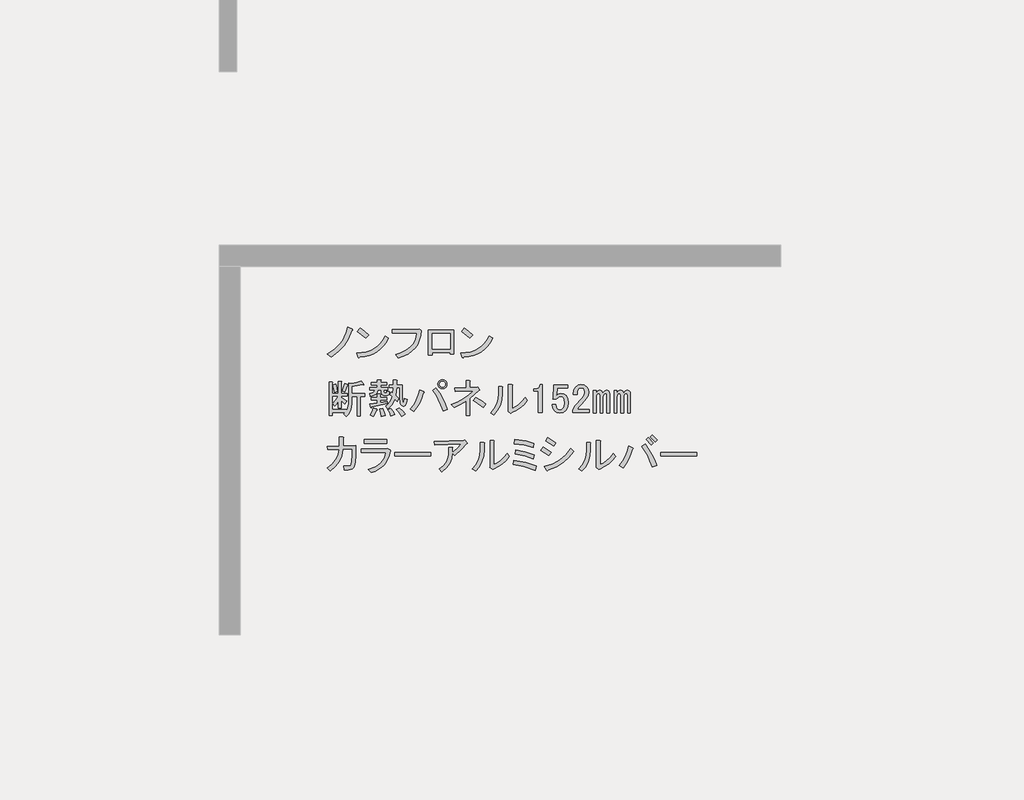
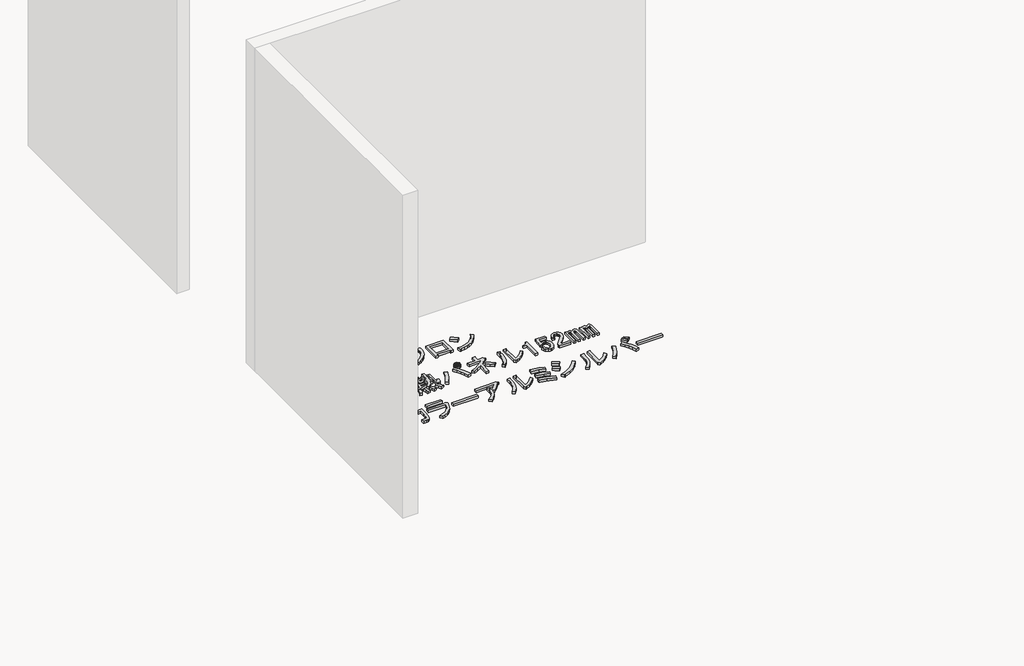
# One storey, part 36 of 117: 1 proxy.
"""IFC4 building model written with IfcOpenShell, lengths in millimetres."""

from ifc_helpers import new_model, si_unit, frame, origin, place, context, project, spatial, polyline, outline, extrude, element, save

model = new_model("IFC4")

# Units and contexts
model_context = context("Model", 3, world=origin())
ifc_project = project(units=[si_unit("LENGTHUNIT", "METRE", prefix="MILLI")], contexts=[model_context])

# Site, building, storey
site = spatial("IfcSite", under=ifc_project)
building = spatial("IfcBuilding", under=site)
storey = spatial("IfcBuildingStorey", under=building, Name="レベル 1", Elevation=500.0)

# Proxy
placement = place(None, origin())
element("IfcBuildingElementProxy", 1, Name="200㎜\u3000MS Pゴシック", ObjectType="200㎜\u3000MS Pゴシック", at=placement, inside=storey, context=model_context, shape_type="SweptSolid", body=[
    extrude(outline(polyline([(943.6706985, -12607.0496882), (918.0952502, -12666.8215225), (889.646156, -12712.7998566), (847.9782907, -12758.2034615), (798.8389462, -12795.560858), (771.2519457, -12773.7211493), (818.9544673, -12743.2605029), (858.6107805, -12704.7536481), (875.9963381, -12680.8305462), (891.3703435, -12652.7406577), (904.7327969, -12620.4839827), (916.0836981, -12584.0605212), (947.1190736, -12597.8540214), (950.2800841, -12602.4518548), (943.6706985, -12607.0496882)])), frame((0.0, 0.0, 500.0), z_axis=(0.0, 0.0, 1.0), x_axis=(1.0, 0.0, 0.0)), (0.0, 0.0, 1.0), 25.0),
    extrude(outline(polyline([(1043.3977052, -12662.2236891), (984.7753292, -12615.0958967), (1004.3161212, -12590.9572713), (1031.6157571, -12610.7854279), (1065.2374138, -12640.3839804), (1043.3977052, -12662.2236891)])), frame((0.0, 0.0, 500.0), z_axis=(0.0, 0.0, 1.0), x_axis=(1.0, 0.0, 0.0)), (0.0, 0.0, 1.0), 25.0),
    extrude(outline(polyline([(1205.4713328, -12662.2236891), (1188.947869, -12691.965924), (1169.8381239, -12717.9724192), (1148.1420975, -12740.2431748), (1123.8597898, -12758.7781907), (1096.9912008, -12773.577467), (1067.5363306, -12784.6410036), (1035.495179, -12791.9688006), (1000.8677461, -12795.560858), (995.1204544, -12803.6070664), (989.3731626, -12797.8597747), (980.1774958, -12767.9738575), (1016.0082679, -12765.2977748), (1048.7857912, -12758.9937141), (1078.5100658, -12749.0616756), (1105.1810916, -12735.5016591), (1128.7988687, -12718.3136646), (1149.363397, -12697.4976923), (1166.8746766, -12673.053742), (1181.3327074, -12644.9818138), (1205.4713328, -12662.2236891)])), frame((0.0, 0.0, 500.0), z_axis=(0.0, 0.0, 1.0), x_axis=(1.0, 0.0, 0.0)), (0.0, 0.0, 1.0), 25.0),
    extrude(outline(polyline([(1256.2314136, -12777.1695243), (1290.014713, -12767.4889298), (1319.5234641, -12755.1142922), (1344.757667, -12740.0456116), (1365.7173217, -12722.282888), (1382.402428, -12701.8261214), (1394.8129862, -12678.6753118), (1402.9489961, -12652.8304591), (1406.8104577, -12624.2915635), (1234.3917049, -12624.2915635), (1234.3917049, -12599.0034798), (1409.1093744, -12599.0034798), (1425.2017914, -12595.5551047), (1437.8458332, -12607.0496882), (1434.325617, -12643.5449909), (1426.0638851, -12676.5919185), (1413.0606375, -12706.1904711), (1395.3158742, -12732.3406486), (1372.8295952, -12755.042451), (1345.6018005, -12774.2958784), (1313.6324901, -12790.1009308), (1276.921664, -12802.4576081), (1256.2314136, -12777.1695243)])), frame((0.0, 0.0, 500.0), z_axis=(0.0, 0.0, 1.0), x_axis=(1.0, 0.0, 0.0)), (0.0, 0.0, 1.0), 25.0),
    extrude(outline(polyline([(1670.955987, -12776.020066), (1644.5184449, -12776.020066), (1644.5184449, -12763.3760241), (1516.9285679, -12763.3760241), (1516.9285679, -12781.7673577), (1490.4910258, -12781.7673577), (1490.4910258, -12602.4518548), (1670.955987, -12602.4518548), (1670.955987, -12776.020066)]), holes=[polyline([(1516.9285679, -12627.7399386), (1516.9285679, -12738.0879404), (1644.5184449, -12738.0879404), (1644.5184449, -12627.7399386), (1516.9285679, -12627.7399386)])]), frame((0.0, 0.0, 500.0), z_axis=(0.0, 0.0, 1.0), x_axis=(1.0, 0.0, 0.0)), (0.0, 0.0, 1.0), 25.0),
    extrude(outline(polyline([(1947.0099049, -12662.2236891), (1930.4864411, -12691.965924), (1911.376696, -12717.9724192), (1889.6806696, -12740.2431748), (1865.3983619, -12758.7781907), (1838.5297729, -12773.577467), (1809.0749026, -12784.6410036), (1777.0337511, -12791.9688006), (1742.4063182, -12795.560858), (1736.6590264, -12803.6070664), (1730.9117347, -12797.8597747), (1721.7160679, -12767.9738575), (1757.5468399, -12765.2977748), (1790.3243633, -12758.9937141), (1820.0486378, -12749.0616756), (1846.7196637, -12735.5016591), (1870.3374407, -12718.3136646), (1890.9019691, -12697.4976923), (1908.4132486, -12673.053742), (1922.8712795, -12644.9818138), (1947.0099049, -12662.2236891)])), frame((0.0, 0.0, 500.0), z_axis=(0.0, 0.0, 1.0), x_axis=(1.0, 0.0, 0.0)), (0.0, 0.0, 1.0), 25.0),
    extrude(outline(polyline([(1784.9362772, -12662.2236891), (1726.3139013, -12615.0958967), (1745.8546933, -12590.9572713), (1773.1543291, -12610.7854279), (1806.7759859, -12640.3839804), (1784.9362772, -12662.2236891)])), frame((0.0, 0.0, 500.0), z_axis=(0.0, 0.0, 1.0), x_axis=(1.0, 0.0, 0.0)), (0.0, 0.0, 1.0), 25.0),
    extrude(outline(polyline([(877.0021141, -13039.2345221), (894.2439894, -12986.3594379), (914.9342397, -12992.1067296), (916.6584273, -12995.2677401), (912.635323, -12997.8540214), (895.3934477, -13046.1312722), (877.0021141, -13039.2345221)])), frame((0.0, 0.0, 500.0), z_axis=(0.0, 0.0, 1.0), x_axis=(1.0, 0.0, 0.0)), (0.0, 0.0, 1.0), 25.0),
    extrude(outline(polyline([(1031.0295333, -12990.9572713), (1029.3053458, -12995.5551047), (1021.8338665, -12993.256188), (944.8201569, -13005.9002299), (944.8201569, -13055.326939), (1036.7768251, -13055.326939), (1036.7768251, -13077.1666477), (1005.7414495, -13077.1666477), (1005.7414495, -13217.4005666), (982.7522825, -13217.4005666), (982.7522825, -13077.1666477), (944.8201569, -13077.1666477), (944.8201569, -13126.5933568), (942.2338756, -13154.3958807), (934.4750317, -13179.1810764), (921.5436253, -13200.948944), (903.4396562, -13219.6994833), (886.1977809, -13200.1586914), (896.5429061, -13190.9630245), (806.8851546, -13190.9630245), (806.8851546, -13212.8027332), (783.8959876, -13212.8027332), (783.8959876, -12973.715396), (805.7356963, -12973.715396), (810.6208943, -12976.0143127), (806.8851546, -12980.6121461), (806.8851546, -13056.4763974), (849.4151137, -13056.4763974), (849.4151137, -12969.1175626), (867.8064473, -12969.1175626), (872.6916453, -12971.4164793), (868.9559057, -12976.0143127), (868.9559057, -13056.4763974), (912.635323, -13056.4763974), (912.635323, -13074.867731), (868.9559057, -13074.867731), (868.9559057, -13084.0633978), (909.186948, -13110.5009399), (895.3934477, -13132.3406486), (868.9559057, -13105.9031065), (868.9559057, -13158.7781907), (849.4151137, -13158.7781907), (849.4151137, -13110.5009399), (836.1963426, -13130.3290965), (821.8281132, -13146.1341488), (809.1840713, -13127.7428152), (831.02378, -13103.6041898), (848.2656553, -13074.867731), (806.8851546, -13074.867731), (806.8851546, -13169.1233159), (904.5891146, -13169.1233159), (904.5891146, -13182.9168161), (917.520521, -13158.7781907), (921.8309898, -13125.4438985), (921.8309898, -12980.6121461), (943.6706985, -12986.3594379), (979.8786366, -12978.8879586), (1010.339283, -12965.6691875), (1031.0295333, -12990.9572713)])), frame((0.0, 0.0, 500.0), z_axis=(0.0, 0.0, 1.0), x_axis=(1.0, 0.0, 0.0)), (0.0, 0.0, 1.0), 25.0),
    extrude(outline(polyline([(822.9775716, -13047.2807305), (810.3335297, -12996.7045631), (829.8743217, -12989.8078129), (837.6331656, -13013.9464383), (842.5183636, -13040.3839804), (822.9775716, -13047.2807305)])), frame((0.0, 0.0, 500.0), z_axis=(0.0, 0.0, 1.0), x_axis=(1.0, 0.0, 0.0)), (0.0, 0.0, 1.0), 25.0),
    extrude(outline(polyline([(1121.8367431, -13167.9738575), (1125.2851182, -13172.8590555), (1119.5378264, -13176.020066), (1109.7674304, -13201.5955143), (1098.8475761, -13220.8489417), (1075.858409, -13209.3543582), (1088.5024509, -13185.790462), (1098.8475761, -13158.7781907), (1121.8367431, -13167.9738575)])), frame((0.0, 0.0, 500.0), z_axis=(0.0, 0.0, 1.0), x_axis=(1.0, 0.0, 0.0)), (0.0, 0.0, 1.0), 25.0),
    extrude(outline(polyline([(1166.6656188, -13163.3760241), (1176.7233794, -13190.67566), (1181.6085774, -13212.8027332), (1152.8721186, -13218.550025), (1150.2858373, -13196.9976809), (1142.5269934, -13166.8243992), (1166.6656188, -13163.3760241)])), frame((0.0, 0.0, 500.0), z_axis=(0.0, 0.0, 1.0), x_axis=(1.0, 0.0, 0.0)), (0.0, 0.0, 1.0), 25.0),
    extrude(outline(polyline([(1281.611454, -13157.6287323), (1306.3248086, -13178.8937119), (1325.2908714, -13203.6070664), (1298.8533293, -13218.550025), (1279.5999019, -13188.9514724), (1260.9212037, -13169.1233159), (1281.611454, -13157.6287323)])), frame((0.0, 0.0, 500.0), z_axis=(0.0, 0.0, 1.0), x_axis=(1.0, 0.0, 0.0)), (0.0, 0.0, 1.0), 25.0),
    extrude(outline(polyline([(1222.9890781, -13216.2511083), (1214.655505, -13191.5377537), (1201.1493694, -13170.2727742), (1221.8396197, -13162.2265657), (1238.7941304, -13183.7789098), (1250.5760785, -13207.0554415), (1222.9890781, -13216.2511083)])), frame((0.0, 0.0, 500.0), z_axis=(0.0, 0.0, 1.0), x_axis=(1.0, 0.0, 0.0)), (0.0, 0.0, 1.0), 25.0),
    extrude(outline(polyline([(1083.9046175, -13153.0308989), (1081.8930654, -13157.9160969), (1078.1573257, -13156.479274), (1072.410034, -13132.3406486), (1127.5840349, -13124.2944401), (1127.5840349, -13101.3052731), (1083.9046175, -13101.3052731), (1083.9046175, -13082.9139395), (1127.5840349, -13082.9139395), (1127.5840349, -13059.9247724), (1145.9753685, -13059.9247724), (1150.8605665, -13062.2236891), (1147.1248268, -13066.8215225), (1147.1248268, -13082.9139395), (1191.9537026, -13082.9139395), (1191.9537026, -13101.3052731), (1147.1248268, -13101.3052731), (1147.1248268, -13120.8460651), (1197.7009943, -13111.6503983), (1197.7009943, -13127.7428152), (1083.9046175, -13153.0308989)])), frame((0.0, 0.0, 500.0), z_axis=(0.0, 0.0, 1.0), x_axis=(1.0, 0.0, 0.0)), (0.0, 0.0, 1.0), 25.0),
    extrude(outline(polyline([(1154.021577, -13031.1883136), (1128.7334932, -13031.1883136), (1124.1356598, -13048.6457123), (1113.7905346, -13061.9363245), (1097.6981177, -13071.0601502), (1075.858409, -13076.0171893), (1071.2605756, -13056.4763974), (1096.5486594, -13047.8554597), (1104.0201386, -13040.5276627), (1108.0432429, -13031.1883136), (1072.410034, -13031.1883136), (1072.410034, -13012.79698), (1126.4345765, -13012.79698), (1126.4345765, -12995.5551047), (1082.7551591, -12995.5551047), (1082.7551591, -12977.1637711), (1126.4345765, -12977.1637711), (1126.4345765, -12958.7724374), (1148.2742852, -12958.7724374), (1153.1594832, -12961.0713541), (1149.4237436, -12965.6691875), (1149.4237436, -12977.1637711), (1191.9537026, -12977.1637711), (1191.9537026, -12995.5551047), (1149.4237436, -12995.5551047), (1149.4237436, -13012.79698), (1202.2988277, -13012.79698), (1202.2988277, -13031.1883136), (1173.5623689, -13031.1883136), (1173.5623689, -13043.8323555), (1174.9991919, -13049.0049181), (1179.3096607, -13050.7291056), (1189.6547859, -13050.7291056), (1193.3905255, -13047.5680951), (1193.1031609, -13038.0850637), (1212.6439529, -13040.3839804), (1209.770307, -13061.9363245), (1204.4540622, -13067.3244106), (1196.551536, -13069.1204392), (1172.4129106, -13069.1204392), (1158.6194104, -13064.2352412), (1154.021577, -13049.5796472), (1154.021577, -13031.1883136)])), frame((0.0, 0.0, 500.0), z_axis=(0.0, 0.0, 1.0), x_axis=(1.0, 0.0, 0.0)), (0.0, 0.0, 1.0), 25.0),
    extrude(outline(polyline([(1285.0598291, -13013.9464383), (1263.2201204, -13013.9464383), (1258.622287, -13071.4193559), (1278.163079, -13089.8106896), (1267.8179538, -13111.6503983), (1251.7255369, -13095.5579813), (1232.4721095, -13133.2027424), (1202.2988277, -13165.6749408), (1185.0569525, -13144.9846905), (1200.1435933, -13133.0590601), (1213.2186821, -13117.9724192), (1224.2822187, -13099.7247679), (1233.3342033, -13078.316106), (1216.092328, -13063.3731475), (1224.1385364, -13046.1312722), (1237.9320367, -13056.4763974), (1240.2309534, -13013.9464383), (1212.6439529, -13013.9464383), (1212.6439529, -12995.5551047), (1240.2309534, -12995.5551047), (1240.2309534, -12961.0713541), (1262.0706621, -12961.0713541), (1266.95586, -12963.3702708), (1263.2201204, -12967.9681043), (1263.2201204, -12995.5551047), (1304.6006211, -12995.5551047), (1304.6006211, -13092.1096063), (1308.0489961, -13116.2482317), (1311.2818477, -13118.2597838), (1314.0836525, -13115.0987733), (1318.3941213, -13093.2590646), (1337.9349133, -13100.1558147), (1333.408921, -13126.9525626), (1325.578236, -13142.9731384), (1314.4428582, -13148.2175421), (1300.0027877, -13142.6857738), (1293.4652433, -13135.3579768), (1288.7955687, -13123.719711), (1285.0598291, -13087.5117729), (1285.0598291, -13013.9464383)])), frame((0.0, 0.0, 500.0), z_axis=(0.0, 0.0, 1.0), x_axis=(1.0, 0.0, 0.0)), (0.0, 0.0, 1.0), 25.0),
    extrude(outline(polyline([(1543.6879583, -13016.245355), (1570.3410238, -13052.9561812), (1592.8273029, -13090.6727833), (1611.1467953, -13129.3951616), (1625.2995013, -13169.1233159), (1594.2641258, -13179.468441), (1578.8182792, -13136.3637528), (1561.2171982, -13097.856898), (1541.4608827, -13063.9478766), (1519.5493329, -13034.6366887), (1543.6879583, -13016.245355)])), frame((0.0, 0.0, 500.0), z_axis=(0.0, 0.0, 1.0), x_axis=(1.0, 0.0, 0.0)), (0.0, 0.0, 1.0), 25.0),
    extrude(outline(polyline([(1456.3291235, -13042.6828971), (1460.3522278, -13048.1428243), (1454.0302068, -13053.0280223), (1442.1045764, -13088.4457078), (1427.0179356, -13122.282888), (1408.7702842, -13154.539563), (1387.3616224, -13185.2157328), (1360.9240803, -13167.9738575), (1384.1287708, -13136.5074351), (1403.1666748, -13103.0294606), (1418.0377922, -13067.539934), (1428.7421231, -13030.0388553), (1456.3291235, -13042.6828971)])), frame((0.0, 0.0, 500.0), z_axis=(0.0, 0.0, 1.0), x_axis=(1.0, 0.0, 0.0)), (0.0, 0.0, 1.0), 25.0),
    extrude(outline(polyline([(1589.6662924, -13021.9926468), (1577.0222505, -13019.6937301), (1566.6771253, -13012.79698), (1559.7803752, -13002.4518548), (1557.4814585, -12989.8078129), (1559.7803752, -12977.1637711), (1566.6771253, -12966.8186459), (1577.0222505, -12959.9218958), (1589.6662924, -12957.6229791), (1602.3103343, -12959.9218958), (1612.6554594, -12966.8186459), (1619.5522095, -12977.1637711), (1621.8511262, -12989.8078129), (1619.5522095, -13002.4518548), (1612.6554594, -13012.79698), (1602.3103343, -13019.6937301), (1589.6662924, -13021.9926468)]), holes=[polyline([(1589.6662924, -13010.4980633), (1597.9998654, -13009.0612403), (1604.609251, -13004.7507715), (1608.9197198, -12998.141386), (1610.3565427, -12989.8078129), (1608.9197198, -12981.4742399), (1604.609251, -12974.8648544), (1597.9998654, -12970.5543855), (1589.6662924, -12969.1175626), (1581.3327193, -12970.5543855), (1574.7233338, -12974.8648544), (1570.412865, -12981.4742399), (1568.976042, -12989.8078129), (1570.412865, -12998.141386), (1574.7233338, -13004.7507715), (1581.3327193, -13009.0612403), (1589.6662924, -13010.4980633)])]), frame((0.0, 0.0, 500.0), z_axis=(0.0, 0.0, 1.0), x_axis=(1.0, 0.0, 0.0)), (0.0, 0.0, 1.0), 25.0),
    extrude(outline(polyline([(1879.3297971, -13155.3298156), (1842.2597652, -13126.0186277), (1809.2128376, -13104.7536481), (1826.4547129, -13082.9139395), (1865.2489323, -13106.1904711), (1898.8705891, -13132.3406486), (1879.3297971, -13155.3298156)])), frame((0.0, 0.0, 500.0), z_axis=(0.0, 0.0, 1.0), x_axis=(1.0, 0.0, 0.0)), (0.0, 0.0, 1.0), 25.0),
    extrude(outline(polyline([(1833.351463, -13011.6475216), (1840.2482131, -13009.3486049), (1852.892255, -13026.5904802), (1854.0417134, -13032.6251366), (1848.2944216, -13034.6366887), (1785.0742122, -13090.9601479), (1785.0742122, -13211.6532749), (1758.6366701, -13211.6532749), (1758.6366701, -13109.3514816), (1718.4056278, -13133.4901069), (1673.5767521, -13155.3298156), (1654.0359601, -13134.6395653), (1699.5832473, -13115.1706145), (1740.8200657, -13092.3969709), (1777.7464152, -13066.3186345), (1810.362296, -13036.9356054), (1680.4735022, -13042.6828971), (1677.0251271, -13017.3948134), (1758.6366701, -13015.0958967), (1758.6366701, -12963.3702708), (1781.6258372, -12963.3702708), (1787.6604935, -12966.8186459), (1785.0742122, -12972.5659377), (1785.0742122, -13013.9464383), (1833.351463, -13011.6475216)])), frame((0.0, 0.0, 500.0), z_axis=(0.0, 0.0, 1.0), x_axis=(1.0, 0.0, 0.0)), (0.0, 0.0, 1.0), 25.0),
    extrude(outline(polyline([(1932.296838, -13193.2619413), (1957.4412394, -13164.0225944), (1975.4015262, -13131.4785548), (1986.1776982, -13095.6298225), (1989.7697556, -13056.4763974), (1989.7697556, -13004.7507715), (2013.908381, -13004.7507715), (2019.6556727, -13008.1991466), (2016.2072977, -13013.9464383), (2016.2072977, -13055.326939), (2012.3997169, -13101.0897496), (2000.9769745, -13141.82368), (1981.9390705, -13177.5287301), (1955.286005, -13208.2048998), (1932.296838, -13193.2619413)])), frame((0.0, 0.0, 500.0), z_axis=(0.0, 0.0, 1.0), x_axis=(1.0, 0.0, 0.0)), (0.0, 0.0, 1.0), 25.0),
    extrude(outline(polyline([(2086.3242571, -13162.2265657), (2111.1094529, -13150.0135708), (2134.8888725, -13132.9153778), (2157.6625161, -13110.9319868), (2179.4303837, -13084.0633978), (2195.5228006, -13105.9031065), (2172.246269, -13133.7056304), (2146.0960914, -13157.3413678), (2117.0722681, -13176.8103186), (2085.1747988, -13192.1124829), (2075.979132, -13196.7103163), (2057.5877983, -13182.9168161), (2059.886715, -13177.1695243), (2059.886715, -12992.1067296), (2084.0253404, -12992.1067296), (2089.7726322, -12995.5551047), (2086.3242571, -13001.3023965), (2086.3242571, -13162.2265657)])), frame((0.0, 0.0, 500.0), z_axis=(0.0, 0.0, 1.0), x_axis=(1.0, 0.0, 0.0)), (0.0, 0.0, 1.0), 25.0),
    extrude(outline(polyline([(2274.8354269, -13015.0958967), (2282.8816353, -13004.1760423), (2286.3300104, -12992.1067296), (2300.1235106, -12992.1067296), (2300.1235106, -13190.9630245), (2273.6859685, -13190.9630245), (2273.6859685, -13038.0850637), (2239.202218, -13038.0850637), (2239.202218, -13024.2915635), (2249.5473431, -13024.2915635), (2263.9155725, -13021.9926468), (2274.8354269, -13015.0958967)])), frame((0.0, 0.0, 500.0), z_axis=(0.0, 0.0, 1.0), x_axis=(1.0, 0.0, 0.0)), (0.0, 0.0, 1.0), 25.0),
    extrude(outline(polyline([(2384.0339703, -12995.5551047), (2482.8873886, -12995.5551047), (2482.8873886, -13017.3948134), (2405.873679, -13017.3948134), (2405.873679, -13020.8431884), (2402.4253039, -13063.3731475), (2401.2758456, -13070.2698976), (2416.7935333, -13059.9247724), (2433.4606795, -13056.4763974), (2454.4382944, -13060.212137), (2471.3928051, -13071.4193559), (2483.4621178, -13091.2475125), (2487.485222, -13118.5471484), (2482.3126594, -13153.0308989), (2475.8469562, -13166.8243992), (2466.7949717, -13178.3189827), (2448.6910026, -13190.3882954), (2426.5639293, -13194.4113996), (2405.5863144, -13190.67566), (2388.6318037, -13179.468441), (2376.562491, -13160.7897428), (2370.2404701, -13134.6395653), (2396.6780122, -13134.6395653), (2400.7011164, -13153.3182635), (2408.1725957, -13165.6749408), (2415.9314396, -13170.8475034), (2425.414471, -13172.5716909), (2437.7711483, -13170.5601388), (2447.2541797, -13164.5254825), (2456.7372111, -13147.5709718), (2459.8982215, -13121.9955234), (2457.3119403, -13097.856898), (2449.5530964, -13082.9139395), (2442.0816171, -13077.7413769), (2433.4606795, -13076.0171893), (2420.529273, -13078.6034706), (2409.3220541, -13086.3623145), (2400.1263872, -13096.7074397), (2377.1372202, -13096.7074397), (2378.2866786, -13088.6612312), (2384.0339703, -13000.1529381), (2384.0339703, -12995.5551047)])), frame((0.0, 0.0, 500.0), z_axis=(0.0, 0.0, 1.0), x_axis=(1.0, 0.0, 0.0)), (0.0, 0.0, 1.0), 25.0),
    extrude(outline(polyline([(2521.9689726, -13062.2236891), (2526.566806, -13030.900949), (2540.3603062, -13008.1991466), (2556.7400877, -12996.9919276), (2575.9935151, -12993.256188), (2598.6953176, -12996.9919276), (2616.2245574, -13008.1991466), (2627.4317764, -13024.8662927), (2631.167516, -13044.9818138), (2626.8570472, -13070.8446268), (2613.9256407, -13093.2590646), (2580.5913485, -13131.1911902), (2562.2000149, -13151.8814406), (2548.4065147, -13170.2727742), (2634.6158911, -13170.2727742), (2634.6158911, -13192.1124829), (2517.3711392, -13192.1124829), (2517.3711392, -13172.5716909), (2523.4057955, -13158.7781907), (2536.9119311, -13140.3868571), (2584.0397236, -13088.6612312), (2598.6953176, -13067.3962517), (2603.5805156, -13044.9818138), (2601.2815989, -13032.337772), (2594.3848487, -13021.9926468), (2586.6260049, -13016.8200842), (2577.1429735, -13015.0958967), (2568.5220358, -13016.8200842), (2561.0505565, -13021.9926468), (2551.5675251, -13038.3724283), (2548.4065147, -13062.2236891), (2521.9689726, -13062.2236891)])), frame((0.0, 0.0, 500.0), z_axis=(0.0, 0.0, 1.0), x_axis=(1.0, 0.0, 0.0)), (0.0, 0.0, 1.0), 25.0),
    extrude(outline(polyline([(2905.8880621, -13032.337772), (2914.2216352, -13033.7745949), (2920.8310207, -13038.0850637), (2926.0035833, -13046.7060014), (2927.7277708, -13058.7753141), (2927.7277708, -13193.2619413), (2908.1869788, -13193.2619413), (2908.1869788, -13069.1204392), (2905.6006976, -13059.6374078), (2897.8418537, -13056.4763974), (2887.4967285, -13061.0742308), (2881.4620722, -13069.6951684), (2879.45052, -13079.4655644), (2879.45052, -13193.2619413), (2859.9097281, -13193.2619413), (2859.9097281, -13069.1204392), (2857.3234468, -13059.6374078), (2849.5646029, -13056.4763974), (2839.2194777, -13061.0742308), (2833.1848214, -13069.6951684), (2831.1732693, -13079.4655644), (2831.1732693, -13193.2619413), (2811.6324773, -13193.2619413), (2811.6324773, -13035.786147), (2831.1732693, -13035.786147), (2831.1732693, -13053.0280223), (2843.242582, -13037.5103346), (2856.461353, -13032.337772), (2865.6570198, -13033.7745949), (2872.5537699, -13038.0850637), (2879.45052, -13051.878564), (2892.3819265, -13037.22297), (2905.8880621, -13032.337772)])), frame((0.0, 0.0, 500.0), z_axis=(0.0, 0.0, 1.0), x_axis=(1.0, 0.0, 0.0)), (0.0, 0.0, 1.0), 25.0),
    extrude(outline(polyline([(2684.0426002, -13193.2619413), (2664.5018082, -13193.2619413), (2664.5018082, -13035.786147), (2684.0426002, -13035.786147), (2684.0426002, -13053.0280223), (2696.1119129, -13037.5103346), (2709.3306839, -13032.337772), (2718.5263508, -13033.7745949), (2725.4231009, -13038.0850637), (2732.319851, -13051.878564), (2745.2512574, -13037.22297), (2758.7573931, -13032.337772), (2767.0909661, -13033.7745949), (2773.7003517, -13038.0850637), (2778.8729142, -13046.7060014), (2780.5971018, -13058.7753141), (2780.5971018, -13193.2619413), (2761.0563098, -13193.2619413), (2761.0563098, -13069.1204392), (2758.4700285, -13059.6374078), (2750.7111846, -13056.4763974), (2740.3660594, -13061.0742308), (2734.3314031, -13069.6951684), (2732.319851, -13079.4655644), (2732.319851, -13193.2619413), (2712.779059, -13193.2619413), (2712.779059, -13069.1204392), (2710.1927777, -13059.6374078), (2702.4339338, -13056.4763974), (2692.0888087, -13061.0742308), (2686.0541523, -13069.6951684), (2684.0426002, -13079.4655644), (2684.0426002, -13193.2619413)])), frame((0.0, 0.0, 500.0), z_axis=(0.0, 0.0, 1.0), x_axis=(1.0, 0.0, 0.0)), (0.0, 0.0, 1.0), 25.0),
    extrude(outline(polyline([(947.1190736, -13450.7291056), (881.5999475, -13453.0280223), (873.3382156, -13499.293721), (855.44977, -13540.3868571), (827.9346107, -13576.3074306), (790.7927377, -13607.0554415), (771.2519457, -13587.5146495), (806.2385843, -13559.2810787), (831.8858738, -13527.4554506), (848.1938142, -13492.0377651), (855.1624054, -13453.0280223), (773.5508624, -13455.326939), (771.2519457, -13432.337772), (856.3118638, -13430.0388553), (856.3118638, -13365.6691875), (880.4504892, -13365.6691875), (887.3472393, -13369.1175626), (882.7494059, -13374.8648544), (882.7494059, -13430.0388553), (973.5566157, -13426.5904802), (973.5566157, -13497.856898), (970.9703344, -13545.8467842), (963.2114905, -13577.1695243), (956.602105, -13587.2272849), (947.1190736, -13594.4113996), (934.7623963, -13598.7218684), (919.5320731, -13600.1586914), (891.9450727, -13600.1586914), (888.4966976, -13571.4222326), (918.3826148, -13573.7211493), (932.4634796, -13570.8475034), (940.2223235, -13562.2265657), (945.3948861, -13536.938482), (947.1190736, -13497.856898), (947.1190736, -13450.7291056)])), frame((0.0, 0.0, 500.0), z_axis=(0.0, 0.0, 1.0), x_axis=(1.0, 0.0, 0.0)), (0.0, 0.0, 1.0), 25.0),
    extrude(outline(polyline([(1061.9729521, -13596.7103163), (1111.6151847, -13578.3908238), (1131.8564279, -13566.2676303), (1149.0444223, -13552.1688052), (1163.179168, -13536.0943485), (1174.2606649, -13518.0442603), (1182.2889131, -13498.0185406), (1187.2639125, -13476.0171893), (1012.546243, -13476.0171893), (1012.546243, -13450.7291056), (1188.4133709, -13450.7291056), (1198.758496, -13447.2807305), (1219.4487464, -13459.9247724), (1222.3223922, -13465.3846996), (1217.1498297, -13470.2698976), (1211.0253719, -13497.7491363), (1201.8476653, -13522.7139349), (1189.6167101, -13545.1642933), (1174.332506, -13565.1002116), (1155.9950533, -13582.5216898), (1134.6043517, -13597.4287278), (1110.1604015, -13609.8213256), (1082.6632025, -13619.6994833), (1061.9729521, -13596.7103163)])), frame((0.0, 0.0, 500.0), z_axis=(0.0, 0.0, 1.0), x_axis=(1.0, 0.0, 0.0)), (0.0, 0.0, 1.0), 25.0),
    extrude(outline(polyline([(1191.8617459, -13410.4980633), (1033.2364933, -13410.4980633), (1033.2364933, -13385.2099795), (1191.8617459, -13385.2099795), (1191.8617459, -13410.4980633)])), frame((0.0, 0.0, 500.0), z_axis=(0.0, 0.0, 1.0), x_axis=(1.0, 0.0, 0.0)), (0.0, 0.0, 1.0), 25.0),
    extrude(outline(polyline([(1250.8979269, -13501.3052731), (1250.8979269, -13476.0171893), (1507.2271394, -13476.0171893), (1507.2271394, -13501.3052731), (1250.8979269, -13501.3052731)])), frame((0.0, 0.0, 500.0), z_axis=(0.0, 0.0, 1.0), x_axis=(1.0, 0.0, 0.0)), (0.0, 0.0, 1.0), 25.0),
    extrude(outline(polyline([(1659.8292302, -13478.316106), (1656.0216494, -13519.5529244), (1642.2999903, -13555.9045448), (1618.664253, -13587.3709672), (1585.1144373, -13613.9521916), (1565.5736453, -13592.1124829), (1595.244039, -13571.8532794), (1616.4371774, -13547.8583363), (1629.1530604, -13520.1276536), (1633.3916881, -13488.6612312), (1633.3916881, -13439.2345221), (1657.5303135, -13439.2345221), (1663.2776052, -13441.8208034), (1659.8292302, -13447.2807305), (1659.8292302, -13477.1666477), (1696.3245329, -13446.4186368), (1723.0494396, -13416.245355), (1535.6877282, -13423.1421052), (1533.3888115, -13396.7045631), (1742.5902315, -13390.9572713), (1750.63644, -13388.6583546), (1767.8783153, -13409.3486049), (1768.1656799, -13412.5096154), (1762.1310235, -13412.79698), (1724.1988979, -13456.1890328), (1679.3700222, -13496.7074397), (1659.8292302, -13478.316106)])), frame((0.0, 0.0, 500.0), z_axis=(0.0, 0.0, 1.0), x_axis=(1.0, 0.0, 0.0)), (0.0, 0.0, 1.0), 25.0),
    extrude(outline(polyline([(1956.8492684, -13562.2265657), (1981.6344641, -13550.0135708), (2005.4138837, -13532.9153778), (2028.1875273, -13510.9319868), (2049.9553949, -13484.0633978), (2066.0478118, -13505.9031065), (2042.7712802, -13533.7056304), (2016.6211027, -13557.3413678), (1987.5972793, -13576.8103186), (1955.69981, -13592.1124829), (1946.5041432, -13596.7103163), (1928.1128096, -13582.9168161), (1930.4117263, -13577.1695243), (1930.4117263, -13392.1067296), (1954.5503517, -13392.1067296), (1960.2976434, -13395.5551047), (1956.8492684, -13401.3023965), (1956.8492684, -13562.2265657)])), frame((0.0, 0.0, 500.0), z_axis=(0.0, 0.0, 1.0), x_axis=(1.0, 0.0, 0.0)), (0.0, 0.0, 1.0), 25.0),
    extrude(outline(polyline([(1802.8218492, -13593.2619413), (1827.9662506, -13564.0225944), (1845.9265374, -13531.4785548), (1856.7027094, -13495.6298225), (1860.2947668, -13456.4763974), (1860.2947668, -13404.7507715), (1884.4333922, -13404.7507715), (1890.1806839, -13408.1991466), (1886.7323089, -13413.9464383), (1886.7323089, -13455.326939), (1882.9247281, -13501.0897496), (1871.5019857, -13541.82368), (1852.4640818, -13577.5287301), (1825.8110162, -13608.2048998), (1802.8218492, -13593.2619413)])), frame((0.0, 0.0, 500.0), z_axis=(0.0, 0.0, 1.0), x_axis=(1.0, 0.0, 0.0)), (0.0, 0.0, 1.0), 25.0),
    extrude(outline(polyline([(2237.3171063, -13520.8460651), (2180.7062824, -13502.1673669), (2107.4283125, -13487.5117729), (2110.8766875, -13459.9247724), (2180.1315532, -13471.9940851), (2245.3633147, -13492.1096063), (2237.3171063, -13520.8460651)])), frame((0.0, 0.0, 500.0), z_axis=(0.0, 0.0, 1.0), x_axis=(1.0, 0.0, 0.0)), (0.0, 0.0, 1.0), 25.0),
    extrude(outline(polyline([(2251.1106065, -13604.7565248), (2167.4875114, -13577.4568889), (2093.6348123, -13562.2265657), (2099.382104, -13532.3406486), (2184.1546575, -13549.0077947), (2259.1568149, -13573.7211493), (2251.1106065, -13604.7565248)])), frame((0.0, 0.0, 500.0), z_axis=(0.0, 0.0, 1.0), x_axis=(1.0, 0.0, 0.0)), (0.0, 0.0, 1.0), 25.0),
    extrude(outline(polyline([(2106.2788541, -13384.0605212), (2187.3156679, -13395.8424693), (2241.9149397, -13410.4980633), (2235.0181896, -13440.3839804), (2173.2348031, -13423.4294697), (2102.8304791, -13413.9464383), (2106.2788541, -13384.0605212)])), frame((0.0, 0.0, 500.0), z_axis=(0.0, 0.0, 1.0), x_axis=(1.0, 0.0, 0.0)), (0.0, 0.0, 1.0), 25.0),
    extrude(outline(polyline([(2314.9285342, -13577.1695243), (2373.6945924, -13558.7063495), (2424.7018068, -13530.9038257), (2467.9501773, -13493.7619527), (2503.4397039, -13447.2807305), (2524.1299543, -13467.9709809), (2490.7956621, -13511.6503983), (2449.4151614, -13548.4330655), (2399.9884522, -13578.3189827), (2342.5155346, -13601.3081497), (2337.9177012, -13608.4922644), (2331.0209511, -13602.4576081), (2314.9285342, -13577.1695243)])), frame((0.0, 0.0, 500.0), z_axis=(0.0, 0.0, 1.0), x_axis=(1.0, 0.0, 0.0)), (0.0, 0.0, 1.0), 25.0),
    extrude(outline(polyline([(2306.8823257, -13438.0850637), (2365.5047017, -13474.867731), (2347.113368, -13499.0063564), (2289.6404504, -13462.2236891), (2306.8823257, -13438.0850637)])), frame((0.0, 0.0, 500.0), z_axis=(0.0, 0.0, 1.0), x_axis=(1.0, 0.0, 0.0)), (0.0, 0.0, 1.0), 25.0),
    extrude(outline(polyline([(2339.0671596, -13370.267021), (2397.6895355, -13407.0496882), (2381.5971186, -13431.1883136), (2324.124201, -13394.4056463), (2339.0671596, -13370.267021)])), frame((0.0, 0.0, 500.0), z_axis=(0.0, 0.0, 1.0), x_axis=(1.0, 0.0, 0.0)), (0.0, 0.0, 1.0), 25.0),
    extrude(outline(polyline([(2713.1009073, -13562.2265657), (2737.8861031, -13550.0135708), (2761.6655227, -13532.9153778), (2784.4391663, -13510.9319868), (2806.2070339, -13484.0633978), (2822.2994508, -13505.9031065), (2799.0229192, -13533.7056304), (2772.8727416, -13557.3413678), (2743.8489183, -13576.8103186), (2711.951449, -13592.1124829), (2702.7557822, -13596.7103163), (2684.3644485, -13582.9168161), (2686.6633652, -13577.1695243), (2686.6633652, -13392.1067296), (2710.8019906, -13392.1067296), (2716.5492824, -13395.5551047), (2713.1009073, -13401.3023965), (2713.1009073, -13562.2265657)])), frame((0.0, 0.0, 500.0), z_axis=(0.0, 0.0, 1.0), x_axis=(1.0, 0.0, 0.0)), (0.0, 0.0, 1.0), 25.0),
    extrude(outline(polyline([(2559.0734882, -13593.2619413), (2584.2178896, -13564.0225944), (2602.1781764, -13531.4785548), (2612.9543484, -13495.6298225), (2616.5464058, -13456.4763974), (2616.5464058, -13404.7507715), (2640.6850312, -13404.7507715), (2646.4323229, -13408.1991466), (2642.9839479, -13413.9464383), (2642.9839479, -13455.326939), (2639.1763671, -13501.0897496), (2627.7536247, -13541.82368), (2608.7157207, -13577.5287301), (2582.0626552, -13608.2048998), (2559.0734882, -13593.2619413)])), frame((0.0, 0.0, 500.0), z_axis=(0.0, 0.0, 1.0), x_axis=(1.0, 0.0, 0.0)), (0.0, 0.0, 1.0), 25.0),
    extrude(outline(polyline([(3032.6503292, -13416.245355), (3059.3033947, -13452.9561812), (3081.7896738, -13490.6727833), (3100.1091662, -13529.3951616), (3114.2618722, -13569.1233159), (3083.2264967, -13579.468441), (3067.7806501, -13536.3637528), (3050.1795691, -13497.856898), (3030.4232536, -13463.9478766), (3008.5117038, -13434.6366887), (3032.6503292, -13416.245355)])), frame((0.0, 0.0, 500.0), z_axis=(0.0, 0.0, 1.0), x_axis=(1.0, 0.0, 0.0)), (0.0, 0.0, 1.0), 25.0),
    extrude(outline(polyline([(2945.2914944, -13442.6828971), (2949.3145987, -13448.1428243), (2942.9925777, -13453.0280223), (2931.0669473, -13488.4457078), (2915.9803065, -13522.282888), (2897.7326551, -13554.539563), (2876.3239933, -13585.2157328), (2849.8864512, -13567.9738575), (2873.0911417, -13536.5074351), (2892.1290457, -13503.0294606), (2907.0001631, -13467.539934), (2917.704494, -13430.0388553), (2945.2914944, -13442.6828971)])), frame((0.0, 0.0, 500.0), z_axis=(0.0, 0.0, 1.0), x_axis=(1.0, 0.0, 0.0)), (0.0, 0.0, 1.0), 25.0),
    extrude(outline(polyline([(3083.2264967, -13353.0251457), (3120.009164, -13388.6583546), (3105.0662054, -13402.4518548), (3068.2835381, -13365.6691875), (3083.2264967, -13353.0251457)])), frame((0.0, 0.0, 500.0), z_axis=(0.0, 0.0, 1.0), x_axis=(1.0, 0.0, 0.0)), (0.0, 0.0, 1.0), 25.0),
    extrude(outline(polyline([(3055.6394962, -13370.267021), (3092.4221635, -13409.3486049), (3075.1802882, -13421.9926468), (3039.5470793, -13382.9110628), (3055.6394962, -13370.267021)])), frame((0.0, 0.0, 500.0), z_axis=(0.0, 0.0, 1.0), x_axis=(1.0, 0.0, 0.0)), (0.0, 0.0, 1.0), 25.0),
    extrude(outline(polyline([(3142.998331, -13501.3052731), (3142.998331, -13476.0171893), (3399.3275435, -13476.0171893), (3399.3275435, -13501.3052731), (3142.998331, -13501.3052731)])), frame((0.0, 0.0, 500.0), z_axis=(0.0, 0.0, 1.0), x_axis=(1.0, 0.0, 0.0)), (0.0, 0.0, 1.0), 25.0),
])

save(model, "model.ifc")
